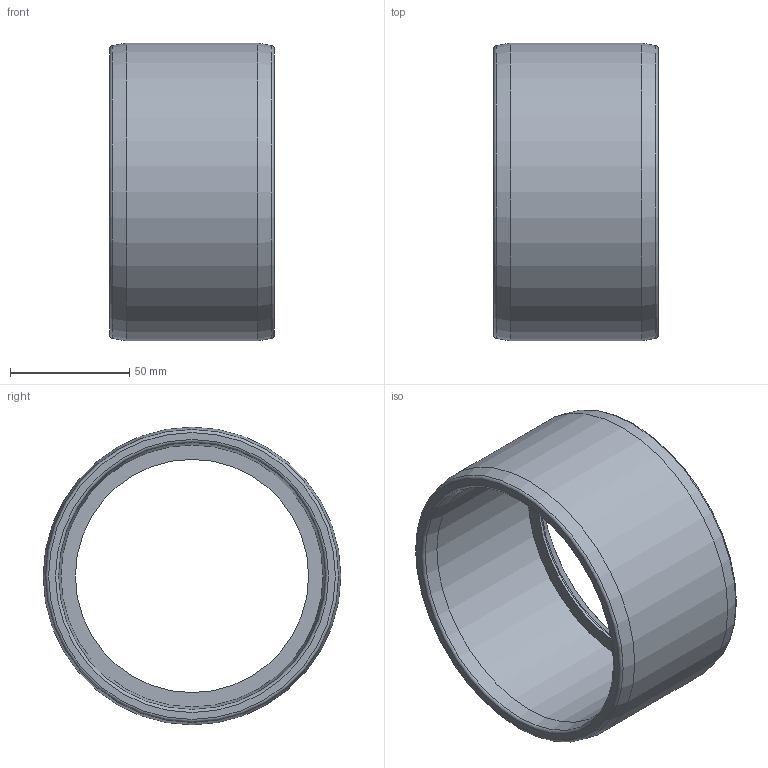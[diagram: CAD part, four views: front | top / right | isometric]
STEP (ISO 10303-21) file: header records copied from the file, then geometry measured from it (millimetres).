
FILE_DESCRIPTION(/* description */ ('PLASSON BUSHING-CEMENT PVC 125-110'),/* implementation_level */ '2;1');
FILE_NAME(/* name */ 'C:\Dropbox\KIMPROJECTS-Inventor\99-16-3568-Processing\PVC Catalog 2017\050900\050900125110.ipt.stp',/* time_stamp */ '2017-12-07T15:59:38+02:00',/* author */ ('KIM'),/* organization */ (''),/* preprocessor_version */ 'ST-DEVELOPER v15.6',/* originating_system */ 'Autodesk Inventor 2015',/* authorisation */ '');
FILE_SCHEMA (('AUTOMOTIVE_DESIGN { 1 0 10303 214 3 1 1 }'));
Length unit declared in the file: millimetre
Products named in the file (1): 050900125110
Bounding box: 69 x 125 x 125 mm (x, y, z)
Volume: 196169.8 mm3; surface area: 57382.2 mm2
Topology: 1 solids, 1 shells, 15 faces, 27 edges, 15 vertices
Faces by surface type: torus 5, cone 4, cylinder 3, plane 3
Full cylindrical faces by diameter (mm): 97.9 x1, 110 x1, 125 x1
Entity records: 332 total; most frequent: DIRECTION 62, CARTESIAN_POINT 46, AXIS2_PLACEMENT_3D 31, EDGE_LOOP 30, ORIENTED_EDGE 30, FACE_BOUND 15, FACE_OUTER_BOUND 15, CIRCLE 15
